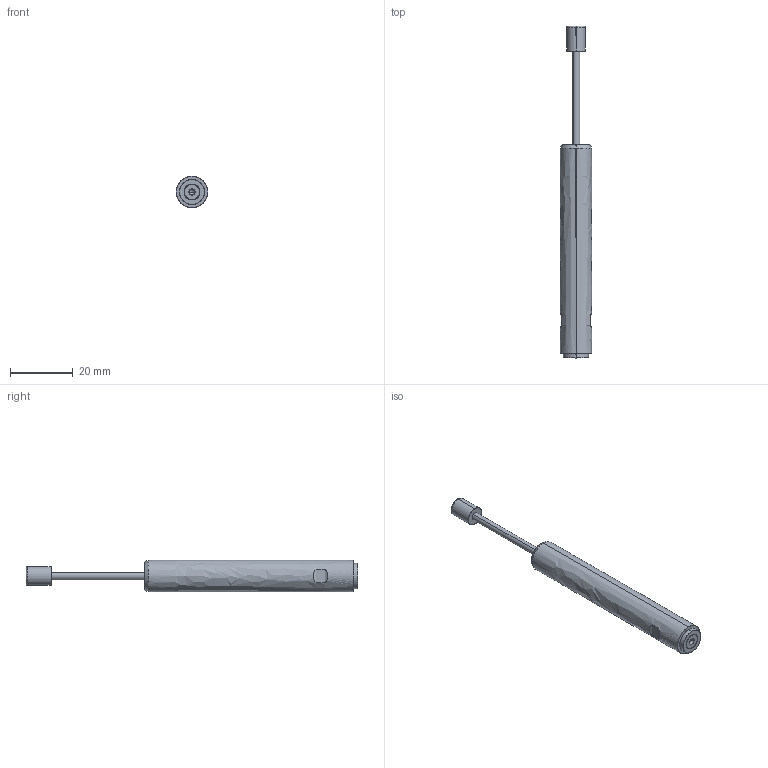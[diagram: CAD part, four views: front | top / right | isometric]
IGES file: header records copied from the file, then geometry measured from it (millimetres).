
Start section: SolidWorks IGES file using analytic representation for surfaces
Bounding box: 10 x 106.1 x 10 mm (x, y, z)
Surface area: 2964.3 mm2 (no closed solid volume)
Topology: 0 solids, 0 shells, 70 faces, 814 edges, 812 vertices
Faces by surface type: bspline 43, revolution 27
